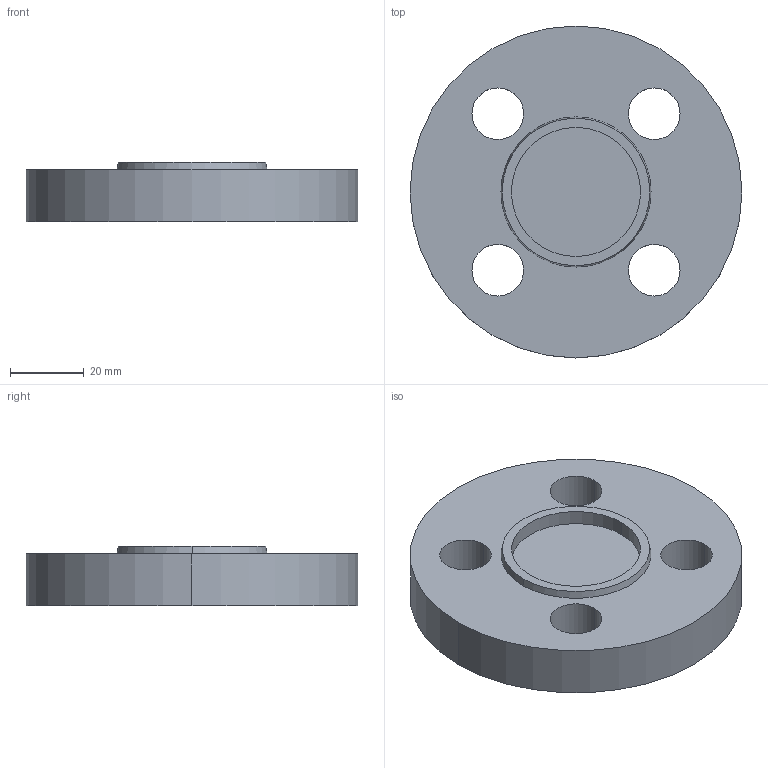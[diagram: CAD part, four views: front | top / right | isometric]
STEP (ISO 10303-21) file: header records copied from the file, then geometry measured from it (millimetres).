
FILE_DESCRIPTION (( 'STEP AP214' ), '1' );
FILE_NAME ('PN40 DN10 Type 05 - Type F Face.STEP', '2018-12-29T05:14:07', ( '' ), ( '' ), 'SwSTEP 2.0', 'SolidWorks 2019', '' );
FILE_SCHEMA (( 'AUTOMOTIVE_DESIGN' ));
Length unit declared in the file: millimetre
Products named in the file (1): PN40 DN10 Type 05 - Type F Face
Bounding box: 90 x 90 x 16 mm (x, y, z)
Volume: 79153 mm3; surface area: 18565.9 mm2
Topology: 1 solids, 1 shells, 18 faces, 42 edges, 28 vertices
Faces by surface type: cylinder 12, plane 4, cone 2
Entity records: 584 total; most frequent: DIRECTION 108, CARTESIAN_POINT 89, ORIENTED_EDGE 84, AXIS2_PLACEMENT_3D 47, EDGE_CURVE 42, CIRCLE 28, EDGE_LOOP 28, VERTEX_POINT 28
